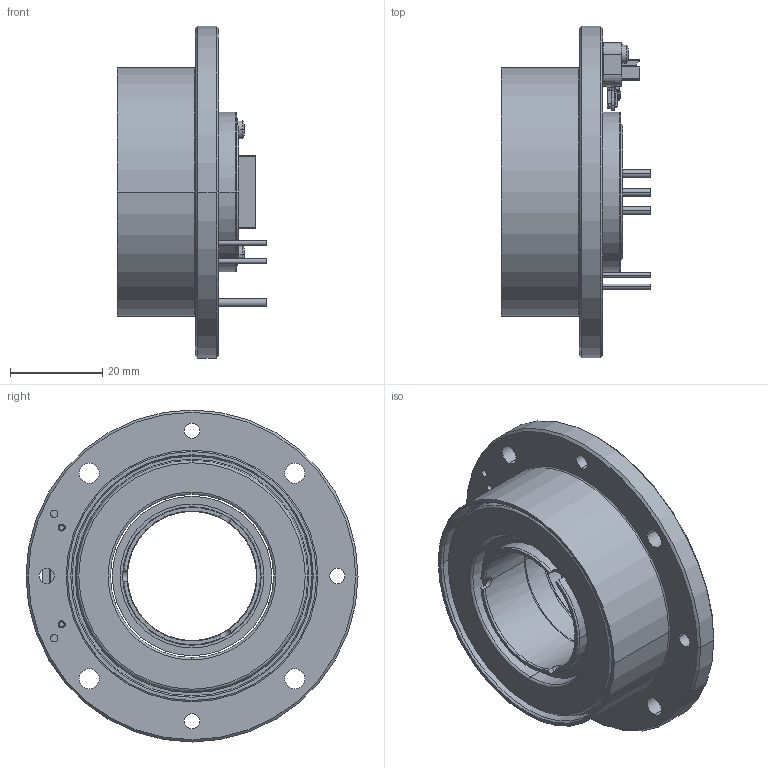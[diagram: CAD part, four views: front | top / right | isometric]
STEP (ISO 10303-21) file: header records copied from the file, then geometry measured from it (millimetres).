
FILE_DESCRIPTION((''),'2;1');
FILE_NAME('MASSBILD_STECKER_AXIA_SW0001','2022-06-23T15:39:25',('mmagvisi'),(''),'CREO PARAMETRIC BY PTC INC, 2020342','CREO PARAMETRIC BY PTC INC, 2020342','');
FILE_SCHEMA(('CONFIG_CONTROL_DESIGN','SHAPE_APPEARANCE_LAYERS_GROUPS'));
Length unit declared in the file: millimetre
Products named in the file (1): MASSBILD_STECKER_AXIA_SW0001
Bounding box: 32.5 x 72 x 72 mm (x, y, z)
Volume: 41667.4 mm3; surface area: 24150.9 mm2
Topology: 4 solids, 4 shells, 2793 faces, 7706 edges, 4762 vertices
Faces by surface type: plane 1671, cylinder 813, sphere 228, cone 66, torus 14, bspline 1
Entity records: 121775 total; most frequent: CARTESIAN_POINT 28840, ORIENTED_EDGE 14970, DIRECTION 14104, PRESENTATION_STYLE_ASSIGNMENT 7489, STYLED_ITEM 7489, CURVE_STYLE 7485, EDGE_CURVE 7485, VECTOR 5478
